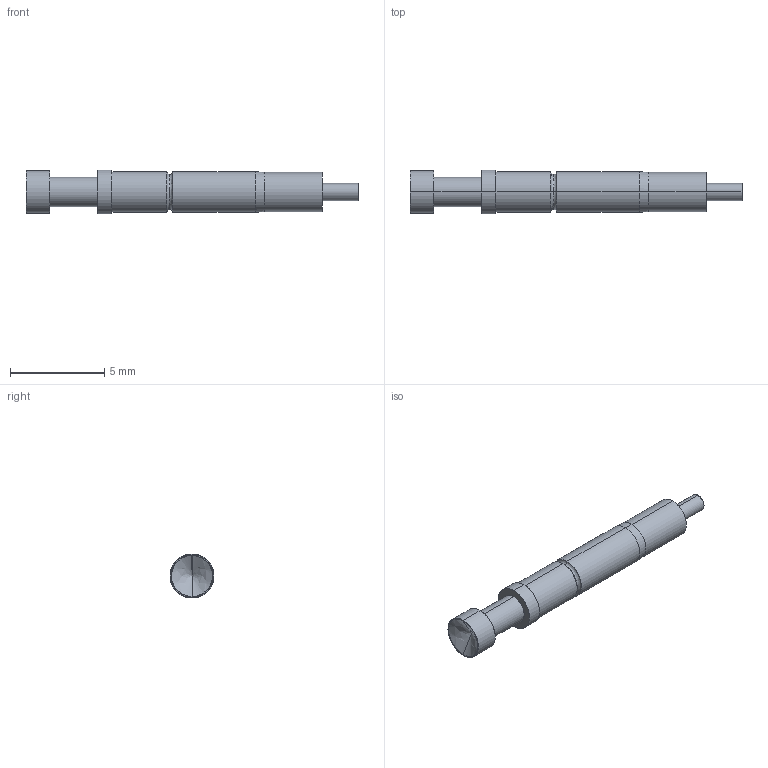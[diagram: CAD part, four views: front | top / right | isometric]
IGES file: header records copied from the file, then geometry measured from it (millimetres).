
Start section: SolidWorks IGES file using analytic representation for surfaces
Global section: file name: O:\PYLON\IGES FILES\P3325\P3325-1.IGS; native system: SolidWorks 2015; preprocessor: SolidWorks 2015; author: kgolden; date: 171020.081037; units: inch
Bounding box: 17.65 x 2.34 x 2.34 mm (x, y, z)
Surface area: 124.9 mm2 (no closed solid volume)
Topology: 0 solids, 0 shells, 32 faces, 408 edges, 404 vertices
Faces by surface type: revolution 22, bspline 10
